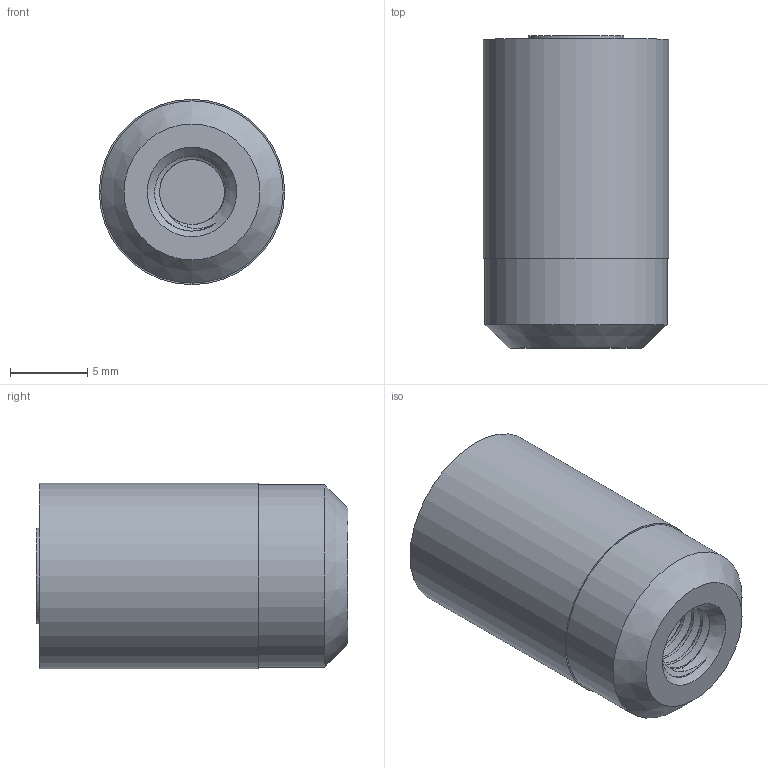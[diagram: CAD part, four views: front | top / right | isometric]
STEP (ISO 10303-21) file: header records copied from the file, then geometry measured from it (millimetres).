
FILE_DESCRIPTION (( 'STEP AP214' ), '1' );
FILE_NAME ('DKH-12.STEP', '2018-10-09T18:00:55', ( '' ), ( '' ), 'SwSTEP 2.0', 'SolidWorks 2017', '' );
FILE_SCHEMA (( 'AUTOMOTIVE_DESIGN' ));
Length unit declared in the file: millimetre
Products named in the file (1): DKH-12
Bounding box: 12 x 20.2 x 12 mm (x, y, z)
Volume: 2107 mm3; surface area: 1069 mm2
Topology: 1 solids, 1 shells, 87 faces, 225 edges, 150 vertices
Faces by surface type: plane 44, cylinder 37, cone 3, bspline 3
Full cylindrical faces by diameter (mm): 4.2 x4, 6.2 x1, 11.8 x1, 12 x1
Entity records: 3699 total; most frequent: CARTESIAN_POINT 1744, ORIENTED_EDGE 402, DIRECTION 303, EDGE_CURVE 201, VERTEX_POINT 137, LINE 123, VECTOR 123, EDGE_LOOP 98
